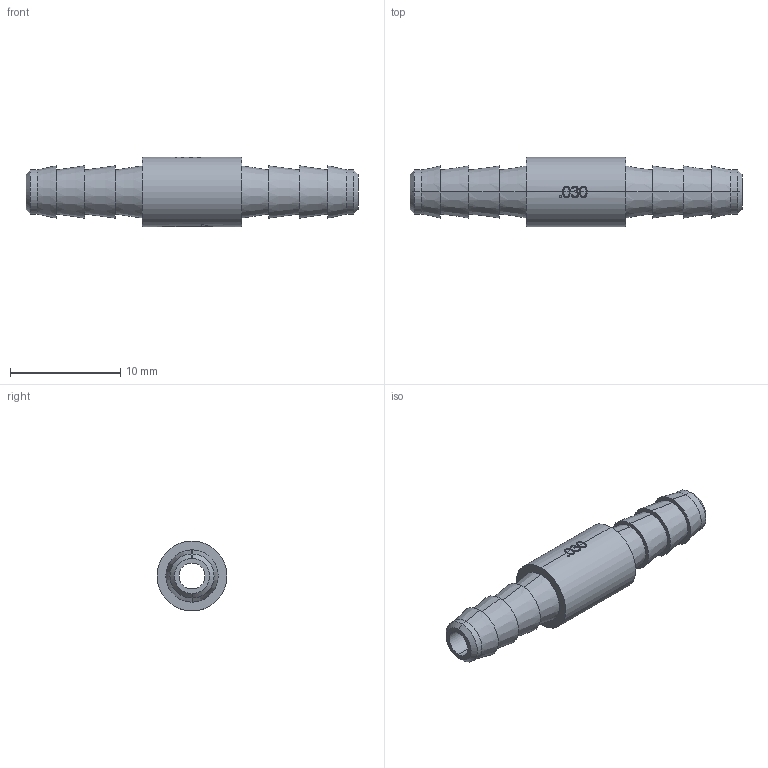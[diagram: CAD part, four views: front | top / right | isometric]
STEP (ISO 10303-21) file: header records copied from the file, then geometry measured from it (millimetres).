
FILE_DESCRIPTION(/* description */ ('SolidWorks IGES file using analytic representation for surfaces '),/* implementation_level */ '2;1');
FILE_NAME(/* name */ 'K:\Normteile INVENTOR\Air-Logic\Orifice restrictors\F-2815-301-B85.IGS.ipt.stp',/* time_stamp */ '2020-05-27T10:46:52+02:00',/* author */ ('cad'),/* organization */ (''),/* preprocessor_version */ 'ST-DEVELOPER v18',/* originating_system */ 'Autodesk Inventor 2020',/* authorisation */ '');
FILE_SCHEMA (('AUTOMOTIVE_DESIGN { 1 0 10303 214 3 1 1 }'));
Length unit declared in the file: millimetre
Products named in the file (1): F-2815-301-B85.IGS
Bounding box: 30.15 x 6.35 x 6.35 mm (x, y, z)
Surface area: 765 mm2 (no closed solid volume)
Topology: 0 solids, 96 shells, 96 faces, 471 edges, 471 vertices
Faces by surface type: bspline 38, cylinder 20, cone 20, plane 18
Entity records: 9559 total; most frequent: CARTESIAN_POINT 6035, DIRECTION 524, VERTEX_POINT 471, EDGE_CURVE 471, ORIENTED_EDGE 471, LINE 218, VECTOR 218, B_SPLINE_CURVE_WITH_KNOTS 159
